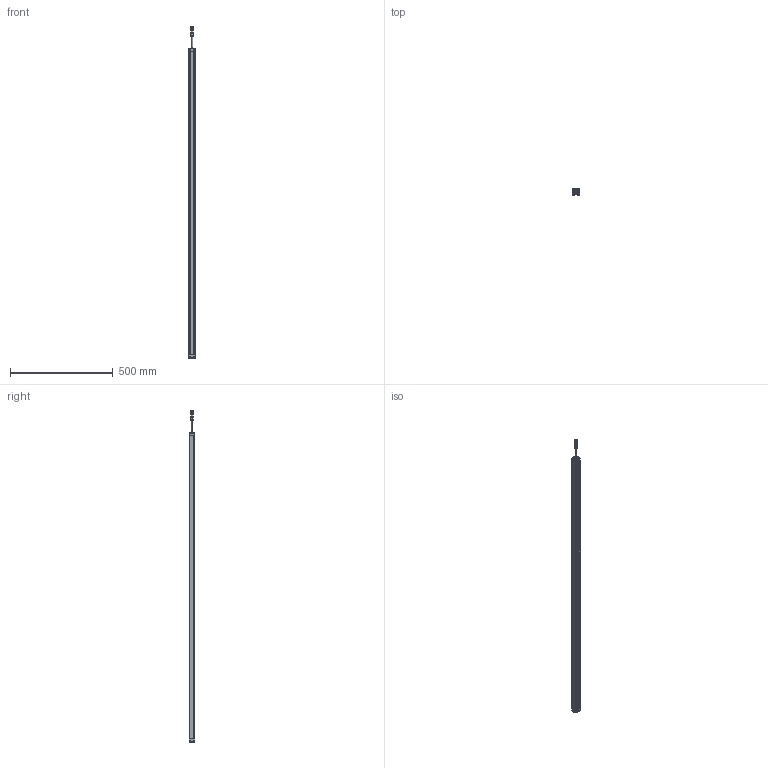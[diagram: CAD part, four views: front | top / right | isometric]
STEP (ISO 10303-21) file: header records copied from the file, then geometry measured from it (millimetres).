
FILE_DESCRIPTION((''),'2;1');
FILE_NAME('SMT1-CGQ_ASM','2025-08-08T08:47:58',('Administrator'),(''),'CREO PARAMETRIC BY PTC INC, 2016510','CREO PARAMETRIC BY PTC INC, 2016510','');
FILE_SCHEMA(('CONFIG_CONTROL_DESIGN'));
Length unit declared in the file: millimetre
Products named in the file (7): SMT1-XINGCAI-V1; SMT1-SDG-V1; SMT1-XDG-V1; M12-CHATOU; ST3X18; CT4-LVGUANGBAN; SMT1-CGQ_ASM
Assembly tree (13 placements, depth 2):
  SMT1-CGQ_ASM
    SMT1-XINGCAI-V1
    SMT1-SDG-V1
    SMT1-XDG-V1
    M12-CHATOU
    ST3X18  x8
    CT4-LVGUANGBAN
Bounding box: 33 x 28.02 x 1619.5 mm (x, y, z)
Volume: 1167109.1 mm3; surface area: 373365.6 mm2
Topology: 13 solids, 13 shells, 712 faces, 1868 edges, 1200 vertices
Faces by surface type: plane 382, cylinder 184, extrusion 86, sphere 32, cone 20, bspline 8
Entity records: 18128 total; most frequent: CARTESIAN_POINT 4347, ORIENTED_EDGE 2916, DIRECTION 2580, EDGE_CURVE 1458, VECTOR 1036, VERTEX_POINT 955, LINE 950, AXIS2_PLACEMENT_3D 772
